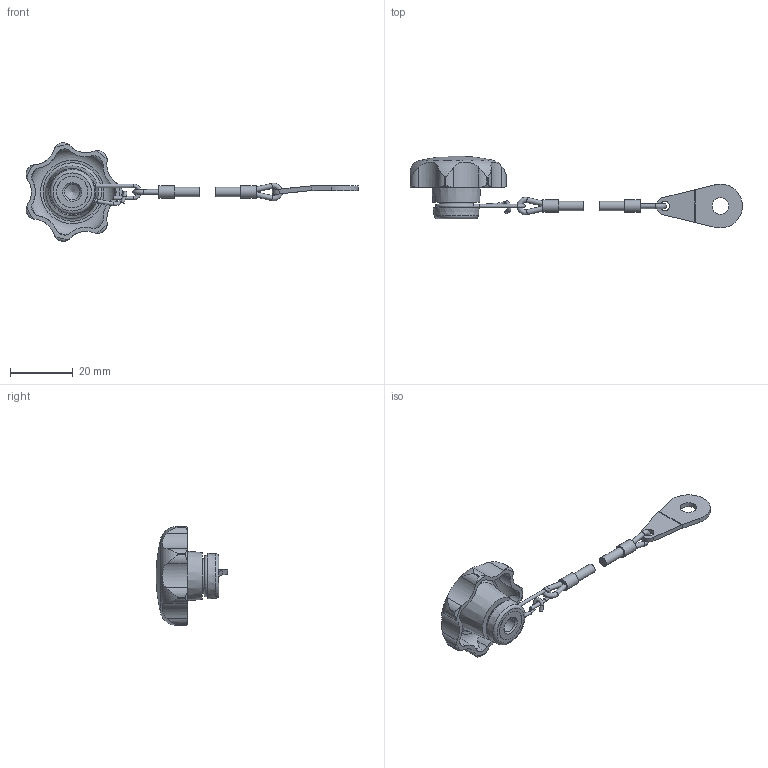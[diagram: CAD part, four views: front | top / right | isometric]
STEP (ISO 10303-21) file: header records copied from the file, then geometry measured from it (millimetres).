
FILE_DESCRIPTION( ( 'STEP AP203' ), '1' );
FILE_NAME( 'C:/Temp/Ganter_Step_05_03_2020/data/2_2/gn_6336_13/gn_6336_13_1/Star knob GN 6336.13-32-M6-H.stp', '2020-03-05T12:10:43', ( 'License CC BY-ND 4.0' ), ( 'CADENAS' ), ' ', 'PARTsolutions', ' ' );
FILE_SCHEMA( ( 'CONFIG_CONTROL_DESIGN' ) );
Length unit declared in the file: millimetre
Products named in the file (3): Star knob GN 6336.13-32-M6-H; _Star knob GN 6336.13-32-M6-H 2; _Star knob GN 111.2-200-14 h1
Assembly tree (2 placements, depth 2):
  Star knob GN 6336.13-32-M6-H
    _Star knob GN 6336.13-32-M6-H 2
    _Star knob GN 111.2-200-14 h1
Bounding box: 105.8 x 22.93 x 31.36 mm (x, y, z)
Volume: 6084.2 mm3; surface area: 4853.6 mm2
Topology: 2 solids, 2 shells, 143 faces, 392 edges, 254 vertices
Faces by surface type: cylinder 77, plane 33, torus 20, cone 12, sphere 1
Full cylindrical faces by diameter (mm): 1.1 x4, 1.11 x1, 1.6 x4, 3 x3, 4 x2, 4.917 x1, 5.3 x1, 9.99 x1, 10.05 x1, 10.9 x1
Entity records: 5269 total; most frequent: CARTESIAN_POINT 1828, DIRECTION 683, ORIENTED_EDGE 664, EDGE_CURVE 332, AXIS2_PLACEMENT_3D 295, VERTEX_POINT 240, EDGE_LOOP 198, FACE_OUTER_BOUND 174
